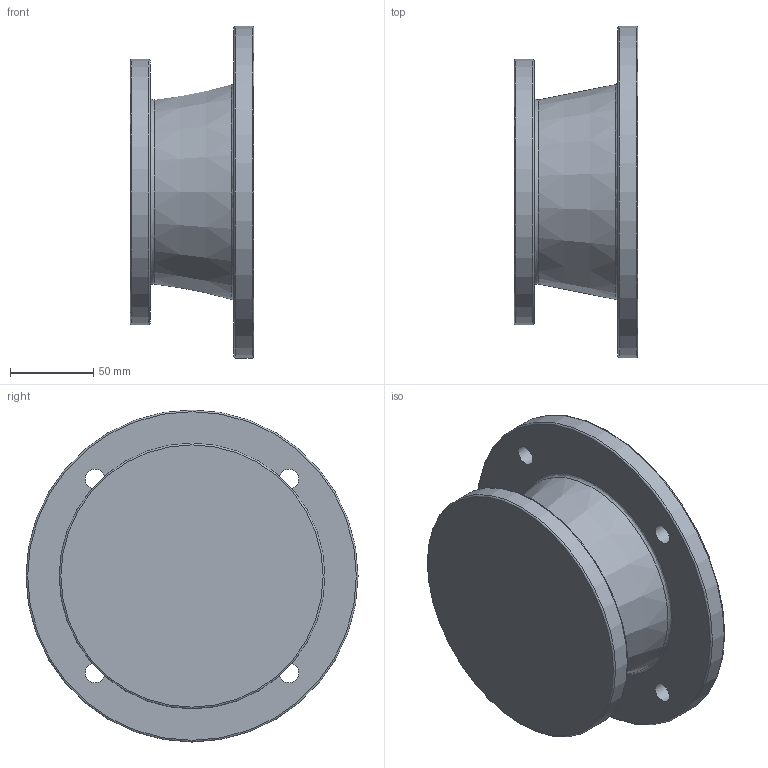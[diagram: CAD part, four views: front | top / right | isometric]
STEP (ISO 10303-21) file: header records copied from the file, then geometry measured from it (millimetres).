
FILE_DESCRIPTION((''),'2;1');
FILE_NAME('F:\PAWEŁ\ZLECENIA\2011 DualSystem\Przekładnie DK\001 Modele\DKAB60_\DK_60_STEP\80_B5_L74,5.stp','2012-08-20T11:55:27',('admin'),(''),'Autodesk Inventor 2009','Autodesk Inventor 2009','');
FILE_SCHEMA(('AUTOMOTIVE_DESIGN { 1 0 10303 214 1 1 1 1 }'));
Length unit declared in the file: millimetre
Products named in the file (1): 80_B5_L74,5
Bounding box: 74.5 x 200 x 200 mm (x, y, z)
Volume: 620506.6 mm3; surface area: 140000.3 mm2
Topology: 1 solids, 1 shells, 30 faces, 59 edges, 37 vertices
Faces by surface type: plane 12, bspline 6, torus 5, cylinder 5, cone 2
Full cylindrical faces by diameter (mm): 19 x1, 35 x1, 130 x1, 160 x1, 200 x1
Entity records: 894 total; most frequent: CARTESIAN_POINT 281, DIRECTION 120, ORIENTED_EDGE 80, EDGE_LOOP 62, AXIS2_PLACEMENT_3D 55, EDGE_CURVE 40, VERTEX_POINT 36, FACE_BOUND 32
